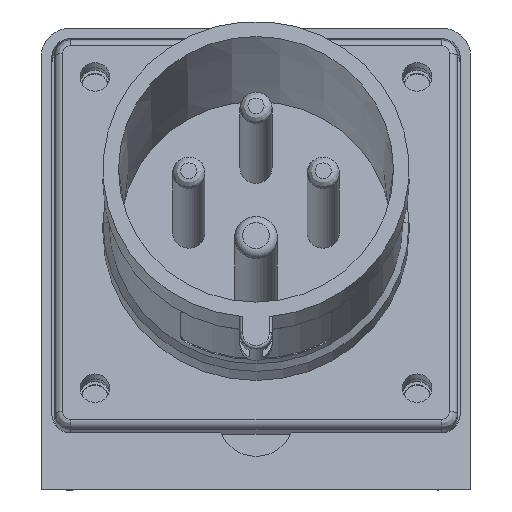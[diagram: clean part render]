
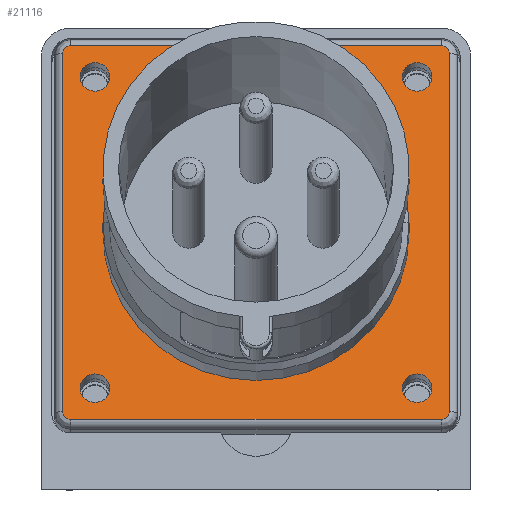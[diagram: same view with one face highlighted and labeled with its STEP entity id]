
A CAD part, front view. The second image highlights one B-rep face of the part: STEP entity #21116.
In plain terms, the highlighted planar face has unit normal (0, -0.966, 0.259).
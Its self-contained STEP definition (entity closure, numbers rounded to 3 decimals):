
#21116 = ADVANCED_FACE('',(#21117,#21187,#21207,#21227,#21247,#21267),
  #21287,.T.);
#21117 = FACE_BOUND('',#21118,.T.);
#21118 = EDGE_LOOP('',(#21119,#21129,#21138,#21146,#21155,#21163,#21172,
    #21180));
#21119 = ORIENTED_EDGE('',*,*,#21120,.T.);
#21120 = EDGE_CURVE('',#21121,#21123,#21125,.T.);
#21121 = VERTEX_POINT('',#21122);
#21122 = CARTESIAN_POINT('',(-36.,-29.86,81.25));
#21123 = VERTEX_POINT('',#21124);
#21124 = CARTESIAN_POINT('',(-36.,-47.719,14.601));
#21125 = LINE('',#21126,#21127);
#21126 = CARTESIAN_POINT('',(-36.,-29.86,81.25));
#21127 = VECTOR('',#21128,1.);
#21128 = DIRECTION('',(0.,-0.259,-0.966));
#21129 = ORIENTED_EDGE('',*,*,#21130,.T.);
#21130 = EDGE_CURVE('',#21123,#21131,#21133,.T.);
#21131 = VERTEX_POINT('',#21132);
#21132 = CARTESIAN_POINT('',(-34.5,-48.107,13.152));
#21133 = CIRCLE('',#21134,1.5);
#21134 = AXIS2_PLACEMENT_3D('',#21135,#21136,#21137);
#21135 = CARTESIAN_POINT('',(-34.5,-47.719,14.601));
#21136 = DIRECTION('',(0.,-0.966,0.259));
#21137 = DIRECTION('',(-1.,0.,0.));
#21138 = ORIENTED_EDGE('',*,*,#21139,.T.);
#21139 = EDGE_CURVE('',#21131,#21140,#21142,.T.);
#21140 = VERTEX_POINT('',#21141);
#21141 = CARTESIAN_POINT('',(34.5,-48.107,13.152));
#21142 = LINE('',#21143,#21144);
#21143 = CARTESIAN_POINT('',(-34.5,-48.107,13.152));
#21144 = VECTOR('',#21145,1.);
#21145 = DIRECTION('',(1.,0.,0.));
#21146 = ORIENTED_EDGE('',*,*,#21147,.T.);
#21147 = EDGE_CURVE('',#21140,#21148,#21150,.T.);
#21148 = VERTEX_POINT('',#21149);
#21149 = CARTESIAN_POINT('',(36.,-47.719,14.601));
#21150 = CIRCLE('',#21151,1.5);
#21151 = AXIS2_PLACEMENT_3D('',#21152,#21153,#21154);
#21152 = CARTESIAN_POINT('',(34.5,-47.719,14.601));
#21153 = DIRECTION('',(0.,-0.966,0.259));
#21154 = DIRECTION('',(0.,-0.259,-0.966));
#21155 = ORIENTED_EDGE('',*,*,#21156,.T.);
#21156 = EDGE_CURVE('',#21148,#21157,#21159,.T.);
#21157 = VERTEX_POINT('',#21158);
#21158 = CARTESIAN_POINT('',(36.,-29.86,81.25));
#21159 = LINE('',#21160,#21161);
#21160 = CARTESIAN_POINT('',(36.,-47.719,14.601));
#21161 = VECTOR('',#21162,1.);
#21162 = DIRECTION('',(0.,0.259,0.966));
#21163 = ORIENTED_EDGE('',*,*,#21164,.T.);
#21164 = EDGE_CURVE('',#21157,#21165,#21167,.T.);
#21165 = VERTEX_POINT('',#21166);
#21166 = CARTESIAN_POINT('',(34.5,-29.472,82.699));
#21167 = CIRCLE('',#21168,1.5);
#21168 = AXIS2_PLACEMENT_3D('',#21169,#21170,#21171);
#21169 = CARTESIAN_POINT('',(34.5,-29.86,81.25));
#21170 = DIRECTION('',(0.,-0.966,0.259));
#21171 = DIRECTION('',(1.,0.,0.));
#21172 = ORIENTED_EDGE('',*,*,#21173,.T.);
#21173 = EDGE_CURVE('',#21165,#21174,#21176,.T.);
#21174 = VERTEX_POINT('',#21175);
#21175 = CARTESIAN_POINT('',(-34.5,-29.472,82.699));
#21176 = LINE('',#21177,#21178);
#21177 = CARTESIAN_POINT('',(34.5,-29.472,82.699));
#21178 = VECTOR('',#21179,1.);
#21179 = DIRECTION('',(-1.,0.,0.));
#21180 = ORIENTED_EDGE('',*,*,#21181,.T.);
#21181 = EDGE_CURVE('',#21174,#21121,#21182,.T.);
#21182 = CIRCLE('',#21183,1.5);
#21183 = AXIS2_PLACEMENT_3D('',#21184,#21185,#21186);
#21184 = CARTESIAN_POINT('',(-34.5,-29.86,81.25));
#21185 = DIRECTION('',(0.,-0.966,0.259));
#21186 = DIRECTION('',(0.,0.259,0.966));
#21187 = FACE_BOUND('',#21188,.T.);
#21188 = EDGE_LOOP('',(#21189,#21200));
#21189 = ORIENTED_EDGE('',*,*,#21190,.F.);
#21190 = EDGE_CURVE('',#21191,#21193,#21195,.T.);
#21191 = VERTEX_POINT('',#21192);
#21192 = CARTESIAN_POINT('',(27.25,-31.025,76.903));
#21193 = VERTEX_POINT('',#21194);
#21194 = CARTESIAN_POINT('',(32.75,-31.025,76.903));
#21195 = CIRCLE('',#21196,2.75);
#21196 = AXIS2_PLACEMENT_3D('',#21197,#21198,#21199);
#21197 = CARTESIAN_POINT('',(30.,-31.025,76.903));
#21198 = DIRECTION('',(0.,-0.966,0.259));
#21199 = DIRECTION('',(-1.,0.,0.));
#21200 = ORIENTED_EDGE('',*,*,#21201,.F.);
#21201 = EDGE_CURVE('',#21193,#21191,#21202,.T.);
#21202 = CIRCLE('',#21203,2.75);
#21203 = AXIS2_PLACEMENT_3D('',#21204,#21205,#21206);
#21204 = CARTESIAN_POINT('',(30.,-31.025,76.903));
#21205 = DIRECTION('',(0.,-0.966,0.259));
#21206 = DIRECTION('',(1.,0.,0.));
#21207 = FACE_BOUND('',#21208,.T.);
#21208 = EDGE_LOOP('',(#21209,#21220));
#21209 = ORIENTED_EDGE('',*,*,#21210,.F.);
#21210 = EDGE_CURVE('',#21211,#21213,#21215,.T.);
#21211 = VERTEX_POINT('',#21212);
#21212 = CARTESIAN_POINT('',(-32.75,-31.025,76.903));
#21213 = VERTEX_POINT('',#21214);
#21214 = CARTESIAN_POINT('',(-27.25,-31.025,76.903));
#21215 = CIRCLE('',#21216,2.75);
#21216 = AXIS2_PLACEMENT_3D('',#21217,#21218,#21219);
#21217 = CARTESIAN_POINT('',(-30.,-31.025,76.903));
#21218 = DIRECTION('',(0.,-0.966,0.259));
#21219 = DIRECTION('',(-1.,0.,0.));
#21220 = ORIENTED_EDGE('',*,*,#21221,.F.);
#21221 = EDGE_CURVE('',#21213,#21211,#21222,.T.);
#21222 = CIRCLE('',#21223,2.75);
#21223 = AXIS2_PLACEMENT_3D('',#21224,#21225,#21226);
#21224 = CARTESIAN_POINT('',(-30.,-31.025,76.903));
#21225 = DIRECTION('',(0.,-0.966,0.259));
#21226 = DIRECTION('',(1.,0.,0.));
#21227 = FACE_BOUND('',#21228,.T.);
#21228 = EDGE_LOOP('',(#21229,#21240));
#21229 = ORIENTED_EDGE('',*,*,#21230,.F.);
#21230 = EDGE_CURVE('',#21231,#21233,#21235,.T.);
#21231 = VERTEX_POINT('',#21232);
#21232 = CARTESIAN_POINT('',(27.25,-46.554,18.948));
#21233 = VERTEX_POINT('',#21234);
#21234 = CARTESIAN_POINT('',(32.75,-46.554,18.948));
#21235 = CIRCLE('',#21236,2.75);
#21236 = AXIS2_PLACEMENT_3D('',#21237,#21238,#21239);
#21237 = CARTESIAN_POINT('',(30.,-46.554,18.948));
#21238 = DIRECTION('',(0.,-0.966,0.259));
#21239 = DIRECTION('',(-1.,0.,0.));
#21240 = ORIENTED_EDGE('',*,*,#21241,.F.);
#21241 = EDGE_CURVE('',#21233,#21231,#21242,.T.);
#21242 = CIRCLE('',#21243,2.75);
#21243 = AXIS2_PLACEMENT_3D('',#21244,#21245,#21246);
#21244 = CARTESIAN_POINT('',(30.,-46.554,18.948));
#21245 = DIRECTION('',(0.,-0.966,0.259));
#21246 = DIRECTION('',(1.,0.,0.));
#21247 = FACE_BOUND('',#21248,.T.);
#21248 = EDGE_LOOP('',(#21249,#21260));
#21249 = ORIENTED_EDGE('',*,*,#21250,.F.);
#21250 = EDGE_CURVE('',#21251,#21253,#21255,.T.);
#21251 = VERTEX_POINT('',#21252);
#21252 = CARTESIAN_POINT('',(-32.75,-46.554,18.948));
#21253 = VERTEX_POINT('',#21254);
#21254 = CARTESIAN_POINT('',(-27.25,-46.554,18.948));
#21255 = CIRCLE('',#21256,2.75);
#21256 = AXIS2_PLACEMENT_3D('',#21257,#21258,#21259);
#21257 = CARTESIAN_POINT('',(-30.,-46.554,18.948));
#21258 = DIRECTION('',(0.,-0.966,0.259));
#21259 = DIRECTION('',(-1.,0.,0.));
#21260 = ORIENTED_EDGE('',*,*,#21261,.F.);
#21261 = EDGE_CURVE('',#21253,#21251,#21262,.T.);
#21262 = CIRCLE('',#21263,2.75);
#21263 = AXIS2_PLACEMENT_3D('',#21264,#21265,#21266);
#21264 = CARTESIAN_POINT('',(-30.,-46.554,18.948));
#21265 = DIRECTION('',(0.,-0.966,0.259));
#21266 = DIRECTION('',(1.,0.,0.));
#21267 = FACE_BOUND('',#21268,.T.);
#21268 = EDGE_LOOP('',(#21269,#21280));
#21269 = ORIENTED_EDGE('',*,*,#21270,.F.);
#21270 = EDGE_CURVE('',#21271,#21273,#21275,.T.);
#21271 = VERTEX_POINT('',#21272);
#21272 = CARTESIAN_POINT('',(-28.5,-38.789,47.926));
#21273 = VERTEX_POINT('',#21274);
#21274 = CARTESIAN_POINT('',(28.5,-38.789,47.926));
#21275 = CIRCLE('',#21276,28.5);
#21276 = AXIS2_PLACEMENT_3D('',#21277,#21278,#21279);
#21277 = CARTESIAN_POINT('',(0.,-38.789,
    47.926));
#21278 = DIRECTION('',(0.,-0.966,0.259));
#21279 = DIRECTION('',(-1.,0.,0.));
#21280 = ORIENTED_EDGE('',*,*,#21281,.F.);
#21281 = EDGE_CURVE('',#21273,#21271,#21282,.T.);
#21282 = CIRCLE('',#21283,28.5);
#21283 = AXIS2_PLACEMENT_3D('',#21284,#21285,#21286);
#21284 = CARTESIAN_POINT('',(0.,-38.789,
    47.926));
#21285 = DIRECTION('',(0.,-0.966,0.259));
#21286 = DIRECTION('',(1.,0.,0.));
#21287 = PLANE('',#21288);
#21288 = AXIS2_PLACEMENT_3D('',#21289,#21290,#21291);
#21289 = CARTESIAN_POINT('',(0.,-38.789,
    47.926));
#21290 = DIRECTION('',(0.,-0.966,0.259));
#21291 = DIRECTION('',(-1.,0.,0.));
